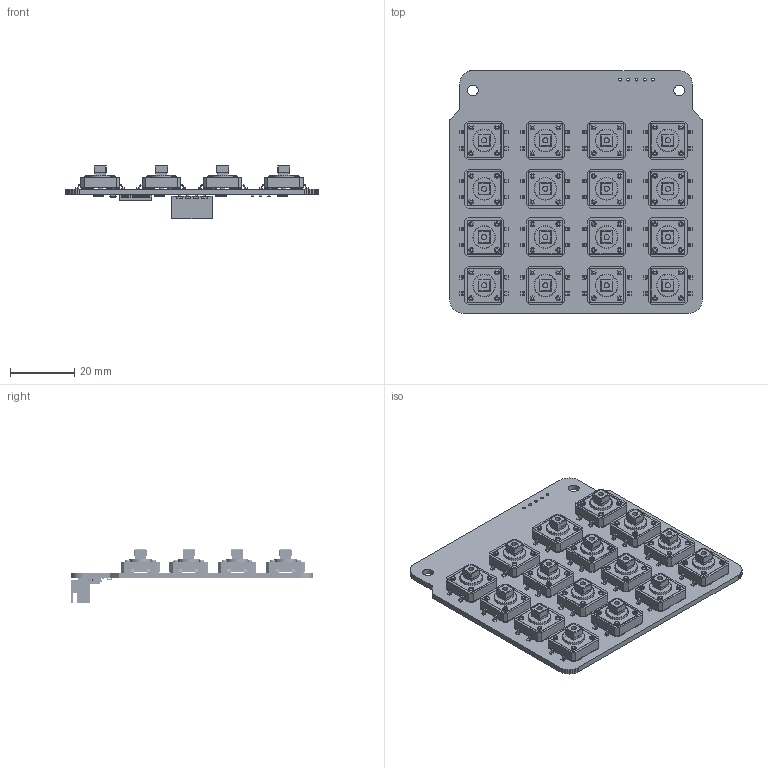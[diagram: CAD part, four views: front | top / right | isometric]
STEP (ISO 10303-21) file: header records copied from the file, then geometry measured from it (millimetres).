
FILE_DESCRIPTION(('Open CASCADE Model'),'2;1');
FILE_NAME('Open CASCADE Shape Model','2025-04-23T12:56:47',('Author'),( 'Open CASCADE'),'Open CASCADE STEP processor 6.5','Open CASCADE 6.5' ,'Unknown');
FILE_SCHEMA(('AUTOMOTIVE_DESIGN { 1 0 10303 214 1 1 1 1 }'));
Length unit declared in the file: millimetre
Products named in the file (43): PCB; Board; S16; 12x12x7.3; S15; S14; S13; S12; S11; S10; S9; S8; S7; S6; S5; S4; S3; S2; S1; R7; User_Library-Array-1206-4Way-Var2-1; User_Library-Array-1206-4Way-Var2-1_Anschl_X_FCsse_1; User_Library-Array-1206-4Way-Var2-1_K_X_F6rper_1; User_Library-Array-1206-4Way-Var2-1_Deckel_1; User_Library-Array-1206-4Way-Var2-1_Beschriftung_1; U1; User_Library-SSOP28_LTC1923; Part_SSOP28_LTC1923_\X2\041f043e\X0\_\X2\
0443043c043e043b04470430043d0438044e\X0\; Assy_Fuss_SSOP28_\X2\041f043e\X0\_\X2\
0443043c043e043b04470430043d0438044e\X0\; Fuss_SSOP28_\X2\041f043e\X0\_\X2\
0443043c043e043b04470430043d0438044e\X0\; R6; R5; R3; 0603_R; R2; R1; C3; User_Library-0603(1608M)_Cap; C1; C2 ...
Assembly tree (120 placements, depth 5):
  PCB
    Board
    S16
      12x12x7.3
    S15
      12x12x7.3
    S14
      12x12x7.3
    S13
      12x12x7.3
    S12
      12x12x7.3
    S11
      12x12x7.3
    S10
      12x12x7.3
    S9
      12x12x7.3
    S8
      12x12x7.3
    S7
      12x12x7.3
    S6
      12x12x7.3
    S5
      12x12x7.3
    S4
      12x12x7.3
    S3
      12x12x7.3
    S2
      12x12x7.3
    S1
      12x12x7.3
    R7
      User_Library-Array-1206-4Way-Var2-1
        User_Library-Array-1206-4Way-Var2-1_Anschl_X_FCsse_1
        User_Library-Array-1206-4Way-Var2-1_K_X_F6rper_1
        User_Library-Array-1206-4Way-Var2-1_Deckel_1
        User_Library-Array-1206-4Way-Var2-1_Beschriftung_1
    U1
      User_Library-SSOP28_LTC1923
        Part_SSOP28_LTC1923_\X2\041f043e\X0\_\X2\
0443043c043e043b04470430043d0438044e\X0\
        Assy_Fuss_SSOP28_\X2\041f043e\X0\_\X2\
0443043c043e043b04470430043d0438044e\X0\  x2
          Fuss_SSOP28_\X2\041f043e\X0\_\X2\
0443043c043e043b04470430043d0438044e\X0\
    R6
      User_Library-Array-1206-4Way-Var2-1
        User_Library-Array-1206-4Way-Var2-1_Anschl_X_FCsse_1
        User_Library-Array-1206-4Way-Var2-1_K_X_F6rper_1
        User_Library-Array-1206-4Way-Var2-1_Deckel_1
        User_Library-Array-1206-4Way-Var2-1_Beschriftung_1
    R5
      User_Library-Array-1206-4Way-Var2-1
        User_Library-Array-1206-4Way-Var2-1_Anschl_X_FCsse_1
        User_Library-Array-1206-4Way-Var2-1_K_X_F6rper_1
        User_Library-Array-1206-4Way-Var2-1_Deckel_1
        User_Library-Array-1206-4Way-Var2-1_Beschriftung_1
    R3
      0603_R
    R2
Bounding box: 78.27 x 75.27 x 16.54 mm (x, y, z)
Volume: 18792.7 mm3; surface area: 22463.2 mm2
Topology: 161 solids, 161 shells, 14222 faces, 39117 edges, 25972 vertices
Faces by surface type: plane 12010, cylinder 1269, bspline 832, torus 80, cone 16, extrusion 15
Full cylindrical faces by diameter (mm): 0.9 x5, 1.5 x64, 1.505 x32, 1.6 x16, 3.3 x2
Entity records: 108229 total; most frequent: CARTESIAN_POINT 26731, DIRECTION 11874, VECTOR 8860, LINE 8855, ORIENTED_EDGE 7532, PCURVE 7532, DEFINITIONAL_REPRESENTATION 7532, EDGE_CURVE 3766
